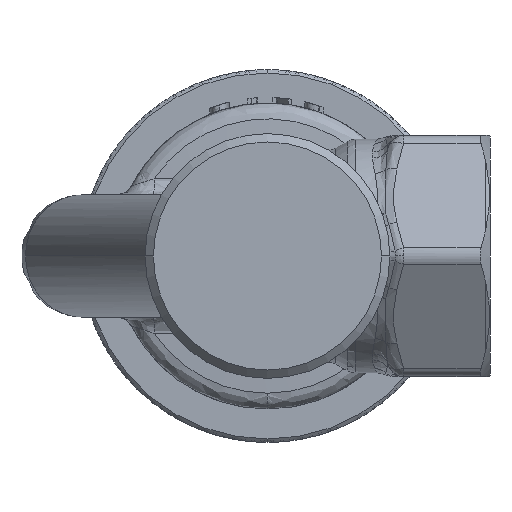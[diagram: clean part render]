
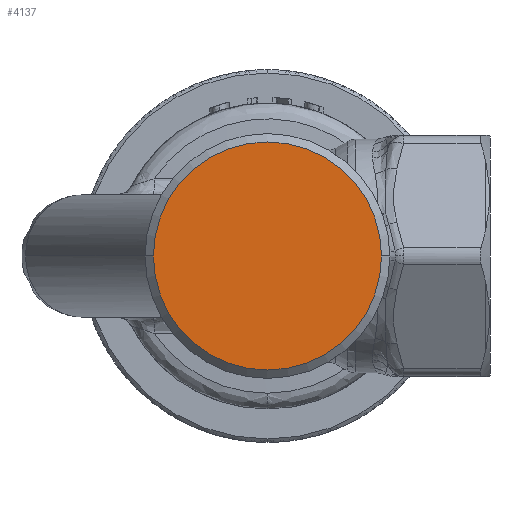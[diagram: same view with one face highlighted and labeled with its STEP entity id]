
A CAD part, front view. The second image highlights one B-rep face of the part: STEP entity #4137.
In plain terms, the highlighted planar face has unit normal (0, -1, 0).
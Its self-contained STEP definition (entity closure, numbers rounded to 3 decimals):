
#1182 = CARTESIAN_POINT ( 'NONE',  ( 0., -23., 0. ) ) ;
#1669 = AXIS2_PLACEMENT_3D ( 'NONE', #2856, #5620, #26005 ) ;
#2856 = CARTESIAN_POINT ( 'NONE',  ( -11., -23., 0. ) ) ;
#3593 = FACE_OUTER_BOUND ( 'NONE', #7641, .T. ) ;
#4137 = ADVANCED_FACE ( 'NONE', ( #3593 ), #17193, .F. ) ;
#5620 = DIRECTION ( 'NONE',  ( 0., 1., 0. ) ) ;
#6512 = CARTESIAN_POINT ( 'NONE',  ( -10.25, -23., 0. ) ) ;
#7641 = EDGE_LOOP ( 'NONE', ( #20014, #30684 ) ) ;
#9774 = DIRECTION ( 'NONE',  ( 0., 1., 0. ) ) ;
#10098 = CARTESIAN_POINT ( 'NONE',  ( 0., -23., 0. ) ) ;
#12779 = DIRECTION ( 'NONE',  ( -1., 0., 0. ) ) ;
#13129 = DIRECTION ( 'NONE',  ( 0., 1., 0. ) ) ;
#13750 = EDGE_CURVE ( 'NONE', #36396, #15322, #28727, .T. ) ;
#15322 = VERTEX_POINT ( 'NONE', #27404 ) ;
#15845 = EDGE_CURVE ( 'NONE', #15322, #36396, #26434, .T. ) ;
#16085 = DIRECTION ( 'NONE',  ( -1., 0., 0. ) ) ;
#17193 = PLANE ( 'NONE',  #1669 ) ;
#18993 = AXIS2_PLACEMENT_3D ( 'NONE', #1182, #9774, #12779 ) ;
#19649 = AXIS2_PLACEMENT_3D ( 'NONE', #10098, #13129, #16085 ) ;
#20014 = ORIENTED_EDGE ( 'NONE', *, *, #13750, .F. ) ;
#26005 = DIRECTION ( 'NONE',  ( 0., 0., 1. ) ) ;
#26434 = CIRCLE ( 'NONE', #18993, 10.25 ) ;
#27404 = CARTESIAN_POINT ( 'NONE',  ( 10.25, -23., 0. ) ) ;
#28727 = CIRCLE ( 'NONE', #19649, 10.25 ) ;
#30684 = ORIENTED_EDGE ( 'NONE', *, *, #15845, .F. ) ;
#36396 = VERTEX_POINT ( 'NONE', #6512 ) ;
